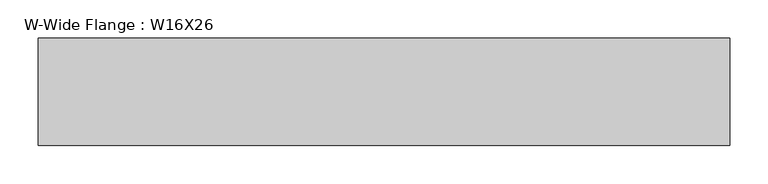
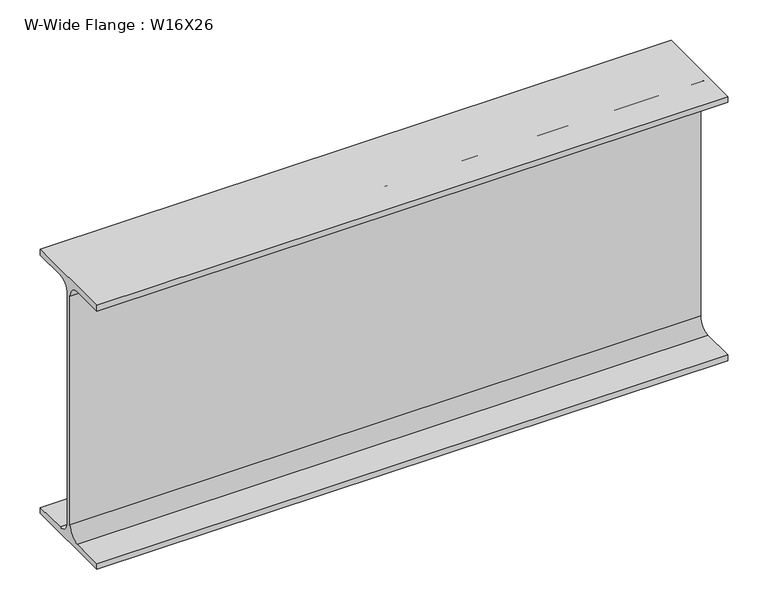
"""IFC4 building model written with IfcOpenShell, lengths in millimetres: beam geometry, W-Wide Flange : W16X26."""

from ifc_helpers import new_model, si_unit, point, frame, frame_2d, origin, place, context, project, spatial, polyline, circle_curve, trimmed, segment, composite_curve, outline, extrude, source, transform, mapped, element, save


def w_wide_flange_w16x26_3b22cc20(model_context):
    return source(origin(), model_context, "Body", "SweptSolid", [
        extrude(outline(composite_curve([segment(polyline([(69.85, -190.5496094), (69.85, -199.2808594), (-69.85, -199.2808594), (-69.85, -190.5496094), (-21.43125, -190.5496094)]), True, "CONTINUOUS"), segment(trimmed(circle_curve(frame_2d((-21.43125, -172.2933594)), 18.25625), [point((-21.43125, -190.5496094))], [point((-3.175, -172.2933594))], True, "CARTESIAN"), True, "CONTINUOUS"), segment(polyline([(-3.175, -172.2933594), (-3.175, 172.2933594)]), True, "CONTINUOUS"), segment(trimmed(circle_curve(frame_2d((-21.43125, 172.2933594)), 18.25625), [point((-3.175, 172.2933594))], [point((-21.43125, 190.5496094))], True, "CARTESIAN"), True, "CONTINUOUS"), segment(polyline([(-21.43125, 190.5496094), (-69.85, 190.5496094), (-69.85, 199.2808594), (69.85, 199.2808594), (69.85, 190.5496094), (21.43125, 190.5496094)]), True, "CONTINUOUS"), segment(trimmed(circle_curve(frame_2d((21.43125, 172.2933594)), 18.25625), [point((21.43125, 190.5496094))], [point((3.175, 172.2933594))], True, "CARTESIAN"), True, "CONTINUOUS"), segment(polyline([(3.175, 172.2933594), (3.175, -172.2933594)]), True, "CONTINUOUS"), segment(trimmed(circle_curve(frame_2d((21.43125, -172.2933594)), 18.25625), [point((3.175, -172.2933594))], [point((21.43125, -190.5496094))], True, "CARTESIAN"), True, "CONTINUOUS"), segment(polyline([(21.43125, -190.5496094), (69.85, -190.5496094)]), True, "CONTINUOUS")], self_intersect=False)), frame((-469.9, 0.0, 0.0), z_axis=(1.0, 0.0, 0.0), x_axis=(0.0, 1.0, 0.0)), (0.0, 0.0, 1.0), 900.43),
    ])


if __name__ == "__main__":
    model = new_model("IFC4")
    model_context = context("Model", 3, world=origin())
    ifc_project = project(units=[si_unit("LENGTHUNIT", "METRE", prefix="MILLI")], contexts=[model_context])
    site = spatial("IfcSite", under=ifc_project)
    building = spatial("IfcBuilding", under=site)
    placement = place(None, origin())
    w_wide_flange_w16x26_shape = w_wide_flange_w16x26_3b22cc20(model_context)
    element("IfcBeam", 1, ObjectType="W-Wide Flange : W16X26", at=placement, inside=building, context=model_context, shape_type="MappedRepresentation", body=[
        mapped(w_wide_flange_w16x26_shape, transform((0.0, 0.0, 0.0), x_axis=(1.0, 0.0, 0.0), y_axis=(0.0, 1.0, 0.0), z_axis=(0.0, 0.0, 1.0))),
    ])
    save(model, "model.ifc")
